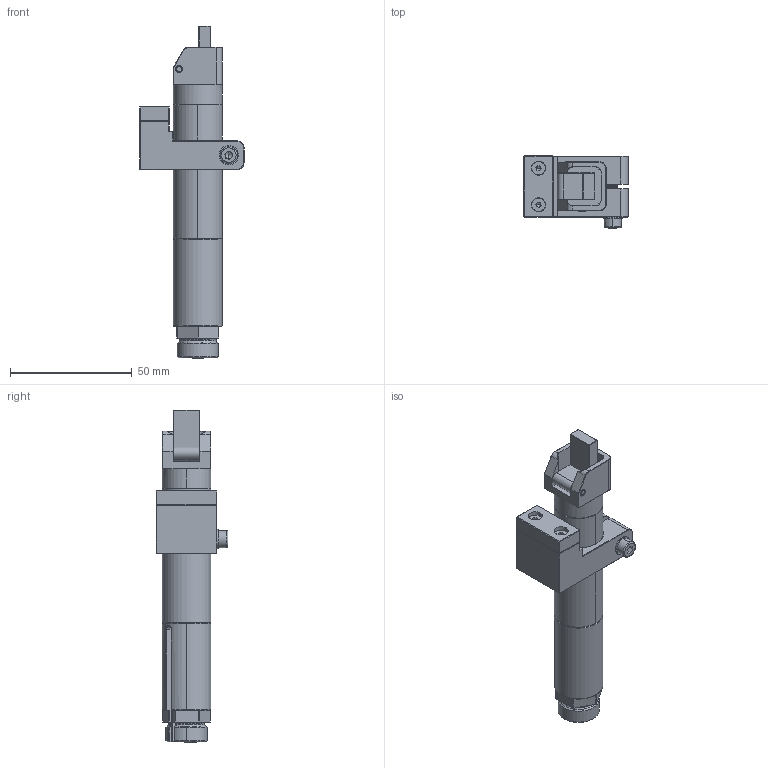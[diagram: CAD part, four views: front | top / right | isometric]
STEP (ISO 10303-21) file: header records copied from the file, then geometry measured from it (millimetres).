
FILE_DESCRIPTION (( 'STEP AP203' ), '1' );
FILE_NAME ('GFS20-90SG.STEP', '2024-05-13T05:57:24', ( '微软用户' ), ( '微软中国' ), 'SwSTEP 2.0', 'SolidWorks 2018', '' );
FILE_SCHEMA (( 'CONFIG_CONTROL_DESIGN' ));
Length unit declared in the file: millimetre
Products named in the file (1): GFS20-90SG
Bounding box: 42.7 x 29.5 x 136.2 mm (x, y, z)
Volume: 48281.2 mm3; surface area: 19007.5 mm2
Topology: 3 solids, 9 shells, 745 faces, 1690 edges, 961 vertices
Faces by surface type: cone 297, plane 239, cylinder 189, bspline 20
Entity records: 21914 total; most frequent: CARTESIAN_POINT 5185, DIRECTION 3661, ORIENTED_EDGE 3352, EDGE_CURVE 1676, AXIS2_PLACEMENT_3D 1351, VERTEX_POINT 961, LINE 959, VECTOR 959
